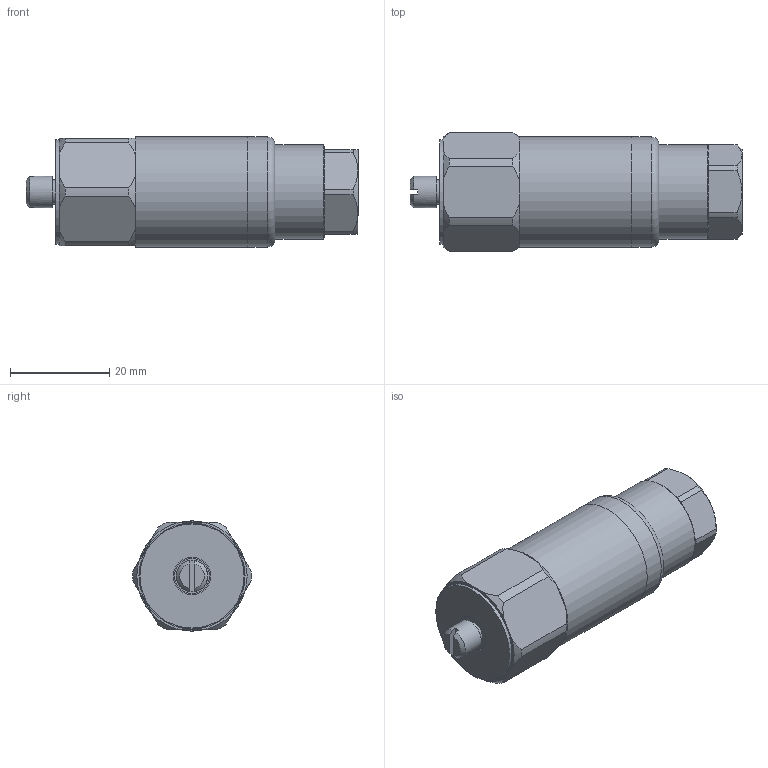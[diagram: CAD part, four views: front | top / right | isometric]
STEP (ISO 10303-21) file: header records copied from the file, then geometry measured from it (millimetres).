
FILE_DESCRIPTION(/* description */ (''),/* implementation_level */ '2;1');
FILE_NAME(/* name */ 'Z:\Engineering\Drawings\3D Library\Assemblies\Website\Premium Top\HS-150 Top Silicon\HS-150XXX0702.stp',/* time_stamp */ '2023-03-12T11:27:48+00:00',/* author */ ('Ricardo.Peneda'),/* organization */ (''),/* preprocessor_version */ 'ST-DEVELOPER v18.1',/* originating_system */ 'Autodesk Inventor 2021',/* authorisation */ '');
FILE_SCHEMA (('AUTOMOTIVE_DESIGN { 1 0 10303 214 3 1 1 }'));
Length unit declared in the file: inch
Products named in the file (1): HS-150XXX0702_Shrinkwrap_1
Bounding box: 66.95 x 23.99 x 22.2 mm (x, y, z)
Volume: 13856.7 mm3; surface area: 8913.9 mm2
Topology: 4 solids, 4 shells, 105 faces, 271 edges, 190 vertices
Faces by surface type: plane 50, cylinder 33, cone 21, torus 1
Full cylindrical faces by diameter (mm): 4.914 x2, 5.359 x1, 6.34 x2, 7.027 x1, 7.5 x1, 9 x1, 12 x2, 14 x1, 15 x2, 15.055 x1, 18 x1, 19 x1, 19.95 x1, 20 x1, 21 x1, 22.2 x2
Entity records: 3415 total; most frequent: CARTESIAN_POINT 654, DIRECTION 580, ORIENTED_EDGE 540, EDGE_CURVE 270, AXIS2_PLACEMENT_3D 248, VERTEX_POINT 190, CIRCLE 142, EDGE_LOOP 126
